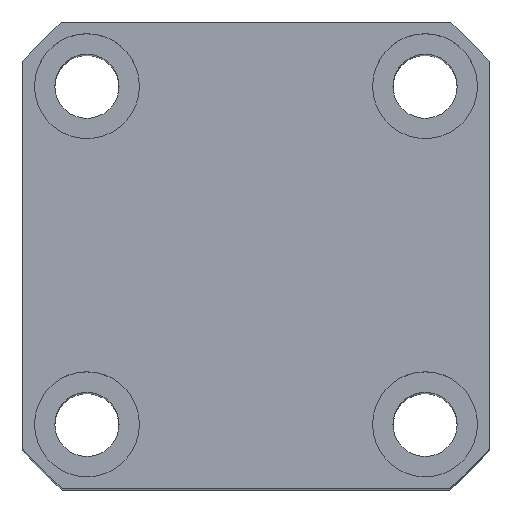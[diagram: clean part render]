
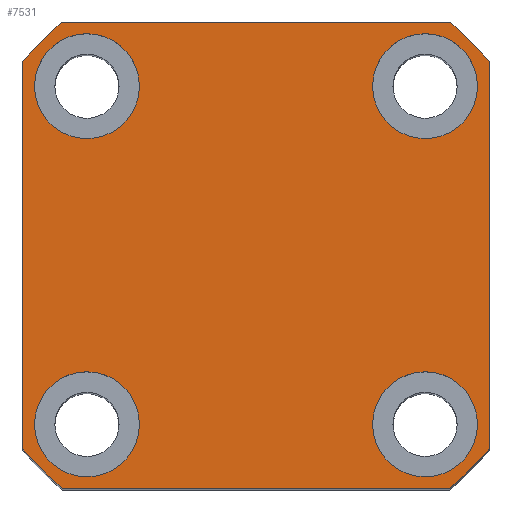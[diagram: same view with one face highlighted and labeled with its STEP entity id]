
A CAD part, top view. The second image highlights one B-rep face of the part: STEP entity #7531.
In plain terms, the highlighted planar face has unit normal (0, 0, 1).
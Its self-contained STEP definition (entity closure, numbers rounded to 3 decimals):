
#265 = VERTEX_POINT ( 'NONE', #11406 ) ;
#307 = DIRECTION ( 'NONE',  ( 1., 0., 0. ) ) ;
#383 = ORIENTED_EDGE ( 'NONE', *, *, #9867, .F. ) ;
#389 = VERTEX_POINT ( 'NONE', #10701 ) ;
#529 = AXIS2_PLACEMENT_3D ( 'NONE', #9721, #9674, #3235 ) ;
#559 = DIRECTION ( 'NONE',  ( 1., 0., 0. ) ) ;
#656 = VERTEX_POINT ( 'NONE', #9168 ) ;
#660 = CARTESIAN_POINT ( 'NONE',  ( -38., -29., 80. ) ) ;
#774 = EDGE_CURVE ( 'NONE', #265, #9504, #12717, .T. ) ;
#817 = VECTOR ( 'NONE', #9495, 1000. ) ;
#976 = DIRECTION ( 'NONE',  ( 0., 0., 1. ) ) ;
#1030 = VERTEX_POINT ( 'NONE', #660 ) ;
#1153 = CIRCLE ( 'NONE', #4171, 9. ) ;
#1156 = CARTESIAN_POINT ( 'NONE',  ( -29., 29., 80. ) ) ;
#1297 = CARTESIAN_POINT ( 'NONE',  ( -29., 29., 80. ) ) ;
#1310 = ORIENTED_EDGE ( 'NONE', *, *, #5973, .T. ) ;
#1535 = AXIS2_PLACEMENT_3D ( 'NONE', #11000, #2353, #8891 ) ;
#1711 = VERTEX_POINT ( 'NONE', #11333 ) ;
#1825 = CIRCLE ( 'NONE', #13696, 9. ) ;
#1909 = DIRECTION ( 'NONE',  ( 1., 0., 0. ) ) ;
#1994 = DIRECTION ( 'NONE',  ( 1., 0., 0. ) ) ;
#2004 = VERTEX_POINT ( 'NONE', #4785 ) ;
#2307 = ORIENTED_EDGE ( 'NONE', *, *, #11970, .F. ) ;
#2324 = CARTESIAN_POINT ( 'NONE',  ( 38., 29., 80. ) ) ;
#2353 = DIRECTION ( 'NONE',  ( 0., 0., 1. ) ) ;
#2405 = VERTEX_POINT ( 'NONE', #10902 ) ;
#2638 = CARTESIAN_POINT ( 'NONE',  ( -29., -29., 80. ) ) ;
#2716 = CIRCLE ( 'NONE', #2948, 9. ) ;
#2730 = CIRCLE ( 'NONE', #529, 52. ) ;
#2749 = DIRECTION ( 'NONE',  ( 1., 0., 0. ) ) ;
#2829 = CARTESIAN_POINT ( 'NONE',  ( -40., 33.226, 80. ) ) ;
#2862 = VERTEX_POINT ( 'NONE', #2324 ) ;
#2948 = AXIS2_PLACEMENT_3D ( 'NONE', #9269, #10403, #559 ) ;
#2978 = DIRECTION ( 'NONE',  ( 1., 0., 0. ) ) ;
#3037 = PLANE ( 'NONE',  #4429 ) ;
#3235 = DIRECTION ( 'NONE',  ( 1., 0., 0. ) ) ;
#3343 = DIRECTION ( 'NONE',  ( -1., 0., 0. ) ) ;
#3446 = EDGE_CURVE ( 'NONE', #2004, #265, #9956, .T. ) ;
#3489 = AXIS2_PLACEMENT_3D ( 'NONE', #10343, #13625, #307 ) ;
#3554 = EDGE_CURVE ( 'NONE', #1711, #10763, #4804, .T. ) ;
#3618 = ORIENTED_EDGE ( 'NONE', *, *, #7656, .F. ) ;
#3661 = DIRECTION ( 'NONE',  ( 0., 0., 1. ) ) ;
#3992 = VECTOR ( 'NONE', #11843, 1000. ) ;
#4107 = FACE_BOUND ( 'NONE', #8499, .T. ) ;
#4143 = CARTESIAN_POINT ( 'NONE',  ( -33.226, -40., 80. ) ) ;
#4171 = AXIS2_PLACEMENT_3D ( 'NONE', #6949, #8030, #2749 ) ;
#4429 = AXIS2_PLACEMENT_3D ( 'NONE', #6243, #11767, #1994 ) ;
#4485 = VERTEX_POINT ( 'NONE', #10970 ) ;
#4753 = DIRECTION ( 'NONE',  ( 0., 0., 1. ) ) ;
#4785 = CARTESIAN_POINT ( 'NONE',  ( -40., -33.226, 80. ) ) ;
#4799 = AXIS2_PLACEMENT_3D ( 'NONE', #11684, #10482, #1909 ) ;
#4804 = CIRCLE ( 'NONE', #12100, 9. ) ;
#4815 = DIRECTION ( 'NONE',  ( 0., 0., 1. ) ) ;
#4854 = ORIENTED_EDGE ( 'NONE', *, *, #10497, .T. ) ;
#5008 = AXIS2_PLACEMENT_3D ( 'NONE', #13538, #4753, #5953 ) ;
#5017 = CARTESIAN_POINT ( 'NONE',  ( -29., -29., 80. ) ) ;
#5041 = VERTEX_POINT ( 'NONE', #7655 ) ;
#5089 = VERTEX_POINT ( 'NONE', #7595 ) ;
#5208 = DIRECTION ( 'NONE',  ( 0., 0., 1. ) ) ;
#5241 = CARTESIAN_POINT ( 'NONE',  ( 20., 29., 80. ) ) ;
#5494 = EDGE_CURVE ( 'NONE', #9504, #5089, #11481, .T. ) ;
#5586 = CARTESIAN_POINT ( 'NONE',  ( -33.226, 40., 80. ) ) ;
#5914 = EDGE_CURVE ( 'NONE', #2405, #389, #10453, .T. ) ;
#5953 = DIRECTION ( 'NONE',  ( 1., 0., 0. ) ) ;
#5973 = EDGE_CURVE ( 'NONE', #7871, #2405, #2730, .T. ) ;
#5997 = CIRCLE ( 'NONE', #4799, 52. ) ;
#6101 = CARTESIAN_POINT ( 'NONE',  ( 40., 33.226, 80. ) ) ;
#6243 = CARTESIAN_POINT ( 'NONE',  ( 0., 0., 80. ) ) ;
#6381 = ORIENTED_EDGE ( 'NONE', *, *, #13002, .F. ) ;
#6571 = VERTEX_POINT ( 'NONE', #5241 ) ;
#6633 = ORIENTED_EDGE ( 'NONE', *, *, #3446, .T. ) ;
#6711 = ORIENTED_EDGE ( 'NONE', *, *, #774, .T. ) ;
#6758 = ORIENTED_EDGE ( 'NONE', *, *, #8490, .T. ) ;
#6815 = CIRCLE ( 'NONE', #5008, 9. ) ;
#6883 = DIRECTION ( 'NONE',  ( 1., 0., 0. ) ) ;
#6924 = CARTESIAN_POINT ( 'NONE',  ( -20., -29., 80. ) ) ;
#6949 = CARTESIAN_POINT ( 'NONE',  ( 29., -29., 80. ) ) ;
#7236 = EDGE_LOOP ( 'NONE', ( #3618, #9704 ) ) ;
#7531 = ADVANCED_FACE ( 'NONE', ( #10609, #10265, #9932, #4107, #12059 ), #3037, .T. ) ;
#7595 = CARTESIAN_POINT ( 'NONE',  ( 40., -33.226, 80. ) ) ;
#7655 = CARTESIAN_POINT ( 'NONE',  ( 20., -29., 80. ) ) ;
#7656 = EDGE_CURVE ( 'NONE', #10763, #1711, #10302, .T. ) ;
#7871 = VERTEX_POINT ( 'NONE', #8200 ) ;
#7948 = EDGE_LOOP ( 'NONE', ( #2307, #11687 ) ) ;
#7994 = CIRCLE ( 'NONE', #9953, 9. ) ;
#8030 = DIRECTION ( 'NONE',  ( 0., 0., 1. ) ) ;
#8200 = CARTESIAN_POINT ( 'NONE',  ( 40., 33.226, 80. ) ) ;
#8471 = ORIENTED_EDGE ( 'NONE', *, *, #13517, .F. ) ;
#8490 = EDGE_CURVE ( 'NONE', #389, #4485, #5997, .T. ) ;
#8499 = EDGE_LOOP ( 'NONE', ( #8471, #383 ) ) ;
#8699 = EDGE_CURVE ( 'NONE', #5041, #656, #13189, .T. ) ;
#8891 = DIRECTION ( 'NONE',  ( 1., 0., 0. ) ) ;
#9168 = CARTESIAN_POINT ( 'NONE',  ( 38., -29., 80. ) ) ;
#9269 = CARTESIAN_POINT ( 'NONE',  ( 29., 29., 80. ) ) ;
#9392 = CARTESIAN_POINT ( 'NONE',  ( 33.226, -40., 80. ) ) ;
#9479 = CARTESIAN_POINT ( 'NONE',  ( 29., -29., 80. ) ) ;
#9495 = DIRECTION ( 'NONE',  ( 0., 1., 0. ) ) ;
#9504 = VERTEX_POINT ( 'NONE', #9392 ) ;
#9564 = DIRECTION ( 'NONE',  ( 0., 0., 1. ) ) ;
#9674 = DIRECTION ( 'NONE',  ( 0., 0., 1. ) ) ;
#9704 = ORIENTED_EDGE ( 'NONE', *, *, #3554, .F. ) ;
#9721 = CARTESIAN_POINT ( 'NONE',  ( 0., 0., 80. ) ) ;
#9828 = EDGE_LOOP ( 'NONE', ( #6758, #4854, #6633, #6711, #13373, #14143, #1310, #10768 ) ) ;
#9841 = VERTEX_POINT ( 'NONE', #6924 ) ;
#9867 = EDGE_CURVE ( 'NONE', #6571, #2862, #2716, .T. ) ;
#9932 = FACE_BOUND ( 'NONE', #7236, .T. ) ;
#9945 = AXIS2_PLACEMENT_3D ( 'NONE', #1156, #976, #13066 ) ;
#9953 = AXIS2_PLACEMENT_3D ( 'NONE', #2638, #4815, #11284 ) ;
#9956 = CIRCLE ( 'NONE', #1535, 52. ) ;
#10265 = FACE_BOUND ( 'NONE', #12207, .T. ) ;
#10302 = CIRCLE ( 'NONE', #9945, 9. ) ;
#10343 = CARTESIAN_POINT ( 'NONE',  ( 0., 0., 80. ) ) ;
#10403 = DIRECTION ( 'NONE',  ( 0., 0., 1. ) ) ;
#10453 = LINE ( 'NONE', #5586, #13360 ) ;
#10482 = DIRECTION ( 'NONE',  ( 0., 0., 1. ) ) ;
#10497 = EDGE_CURVE ( 'NONE', #4485, #2004, #12481, .T. ) ;
#10609 = FACE_BOUND ( 'NONE', #7948, .T. ) ;
#10701 = CARTESIAN_POINT ( 'NONE',  ( -33.226, 40., 80. ) ) ;
#10763 = VERTEX_POINT ( 'NONE', #14077 ) ;
#10768 = ORIENTED_EDGE ( 'NONE', *, *, #5914, .T. ) ;
#10902 = CARTESIAN_POINT ( 'NONE',  ( 33.226, 40., 80. ) ) ;
#10970 = CARTESIAN_POINT ( 'NONE',  ( -40., 33.226, 80. ) ) ;
#11000 = CARTESIAN_POINT ( 'NONE',  ( 0., 0., 80. ) ) ;
#11284 = DIRECTION ( 'NONE',  ( 1., 0., 0. ) ) ;
#11333 = CARTESIAN_POINT ( 'NONE',  ( -38., 29., 80. ) ) ;
#11406 = CARTESIAN_POINT ( 'NONE',  ( -33.226, -40., 80. ) ) ;
#11481 = CIRCLE ( 'NONE', #3489, 52. ) ;
#11595 = EDGE_CURVE ( 'NONE', #5089, #7871, #13824, .T. ) ;
#11613 = DIRECTION ( 'NONE',  ( 1., 0., 0. ) ) ;
#11684 = CARTESIAN_POINT ( 'NONE',  ( 0., 0., 80. ) ) ;
#11687 = ORIENTED_EDGE ( 'NONE', *, *, #8699, .F. ) ;
#11767 = DIRECTION ( 'NONE',  ( 0., 0., 1. ) ) ;
#11843 = DIRECTION ( 'NONE',  ( 1., 0., 0. ) ) ;
#11970 = EDGE_CURVE ( 'NONE', #656, #5041, #1153, .T. ) ;
#12059 = FACE_OUTER_BOUND ( 'NONE', #9828, .T. ) ;
#12100 = AXIS2_PLACEMENT_3D ( 'NONE', #1297, #3661, #6883 ) ;
#12207 = EDGE_LOOP ( 'NONE', ( #6381, #12682 ) ) ;
#12481 = LINE ( 'NONE', #2829, #13839 ) ;
#12682 = ORIENTED_EDGE ( 'NONE', *, *, #13987, .F. ) ;
#12717 = LINE ( 'NONE', #4143, #3992 ) ;
#13002 = EDGE_CURVE ( 'NONE', #9841, #1030, #7994, .T. ) ;
#13066 = DIRECTION ( 'NONE',  ( 1., 0., 0. ) ) ;
#13148 = AXIS2_PLACEMENT_3D ( 'NONE', #9479, #5208, #11613 ) ;
#13189 = CIRCLE ( 'NONE', #13148, 9. ) ;
#13360 = VECTOR ( 'NONE', #3343, 1000. ) ;
#13373 = ORIENTED_EDGE ( 'NONE', *, *, #5494, .T. ) ;
#13517 = EDGE_CURVE ( 'NONE', #2862, #6571, #6815, .T. ) ;
#13538 = CARTESIAN_POINT ( 'NONE',  ( 29., 29., 80. ) ) ;
#13625 = DIRECTION ( 'NONE',  ( 0., 0., 1. ) ) ;
#13696 = AXIS2_PLACEMENT_3D ( 'NONE', #5017, #9564, #2978 ) ;
#13786 = DIRECTION ( 'NONE',  ( 0., -1., 0. ) ) ;
#13824 = LINE ( 'NONE', #6101, #817 ) ;
#13839 = VECTOR ( 'NONE', #13786, 1000. ) ;
#13987 = EDGE_CURVE ( 'NONE', #1030, #9841, #1825, .T. ) ;
#14077 = CARTESIAN_POINT ( 'NONE',  ( -20., 29., 80. ) ) ;
#14143 = ORIENTED_EDGE ( 'NONE', *, *, #11595, .T. ) ;
